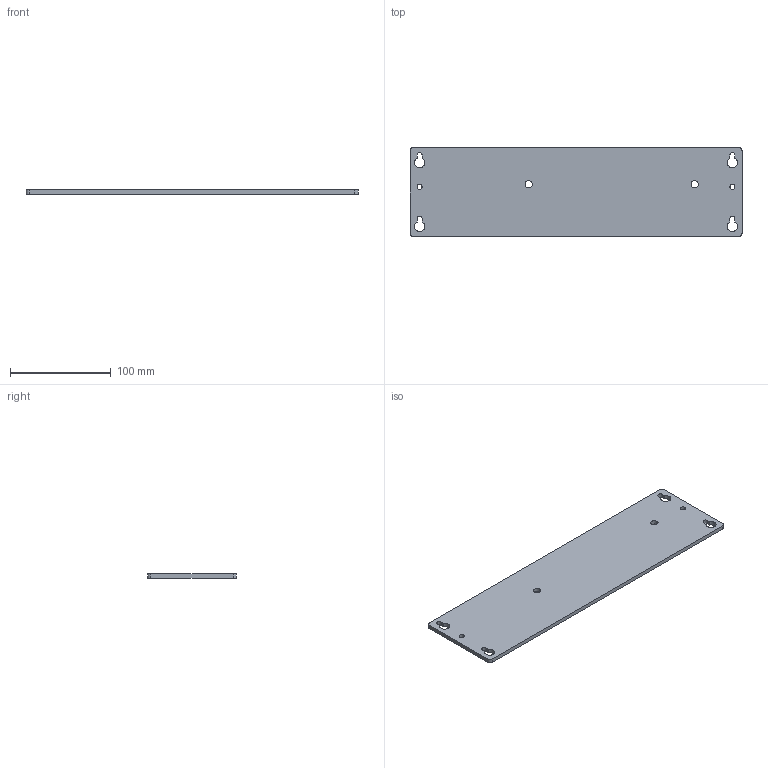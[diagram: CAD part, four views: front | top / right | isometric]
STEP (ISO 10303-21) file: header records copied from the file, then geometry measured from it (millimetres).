
FILE_DESCRIPTION((''),'2;1');
FILE_NAME('PANEL_MOUNT_8_SLOT','2007-02-01T',('chrisj'),(''),'PRO/ENGINEER BY PARAMETRIC TECHNOLOGY CORPORATION, 2006080','PRO/ENGINEER BY PARAMETRIC TECHNOLOGY CORPORATION, 2006080','');
FILE_SCHEMA(('AUTOMOTIVE_DESIGN_CC2 { 1 2 10303 214 -1 1 5 2 }'));
Length unit declared in the file: inch
Products named in the file (1): PANEL_MOUNT_8_SLOT
Bounding box: 330.2 x 88.14 x 4 mm (x, y, z)
Volume: 114215.6 mm3; surface area: 61397.4 mm2
Topology: 1 solids, 1 shells, 34 faces, 96 edges, 64 vertices
Faces by surface type: cylinder 20, plane 14
Entity records: 1196 total; most frequent: DIRECTION 204, CARTESIAN_POINT 194, ORIENTED_EDGE 192, EDGE_CURVE 96, AXIS2_PLACEMENT_3D 74, VERTEX_POINT 64, VECTOR 56, LINE 56
